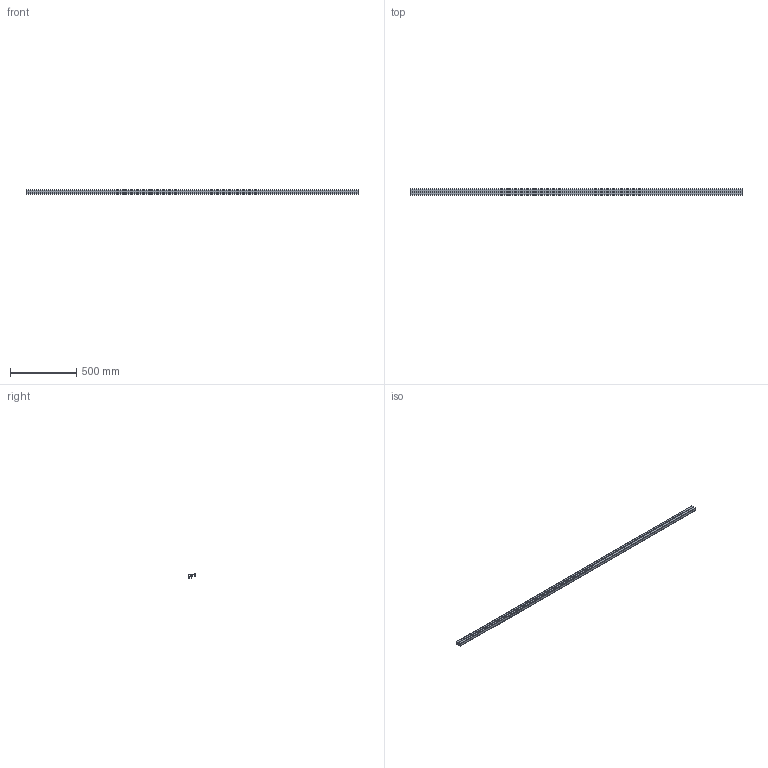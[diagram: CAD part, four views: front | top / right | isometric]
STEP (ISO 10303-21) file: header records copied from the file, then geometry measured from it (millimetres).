
FILE_DESCRIPTION(('STEP AP242'),'1');
FILE_NAME('OPO_51.047.71_volu_schn_3d.stp','2026-02-23T17:26:03',(' '),(' '),'Spatial InterOp 3D',' ',' ');
FILE_SCHEMA(('AP242_MANAGED_MODEL_BASED_3D_ENGINEERING_MIM_LF {1 0 10303 442 1 1 4}'));
Length unit declared in the file: millimetre
Products named in the file (1): 1
Bounding box: 2500 x 48.5 x 33 mm (x, y, z)
Volume: 564142.1 mm3; surface area: 838735.6 mm2
Topology: 1 solids, 1 shells, 96 faces, 476 edges, 594 vertices
Faces by surface type: plane 76, cylinder 20
Entity records: 6367 total; most frequent: CARTESIAN_POINT 752, DIRECTION 732, ORIENTED_EDGE 536, LINE 416, VECTOR 416, STYLED_ITEM 304, PRESENTATION_STYLE_ASSIGNMENT 304, COLOUR_RGB 304
